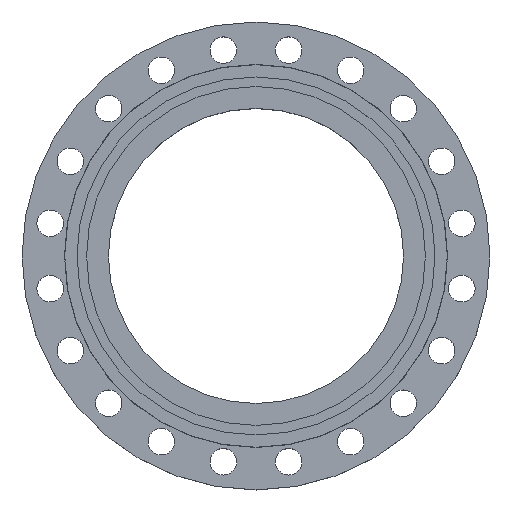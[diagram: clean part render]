
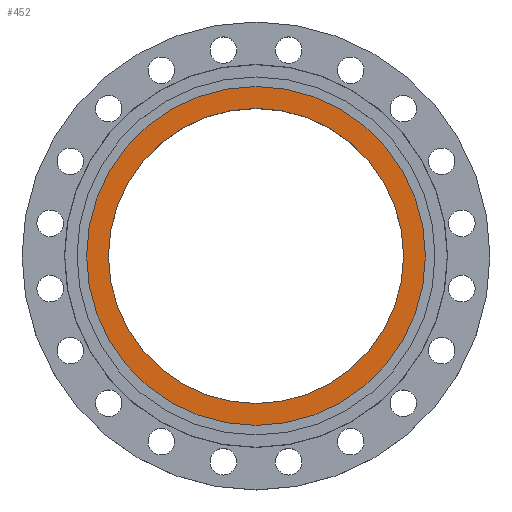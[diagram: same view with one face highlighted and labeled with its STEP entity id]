
A CAD part, top view. The second image highlights one B-rep face of the part: STEP entity #452.
In plain terms, the highlighted planar face has unit normal (0, 0, 1).
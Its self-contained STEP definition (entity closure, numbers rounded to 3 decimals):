
#20 = VERTEX_POINT ( 'NONE', #1211 ) ;
#27 = ORIENTED_EDGE ( 'NONE', *, *, #818, .T. ) ;
#31 = ORIENTED_EDGE ( 'NONE', *, *, #225, .T. ) ;
#46 = DIRECTION ( 'NONE',  ( -1., 0., 0. ) ) ;
#157 = VERTEX_POINT ( 'NONE', #1797 ) ;
#167 = DIRECTION ( 'NONE',  ( 0., 0., -1. ) ) ;
#172 = CIRCLE ( 'NONE', #1495, 248. ) ;
#225 = EDGE_CURVE ( 'NONE', #20, #629, #1146, .T. ) ;
#403 = DIRECTION ( 'NONE',  ( -1., 0., 0. ) ) ;
#452 = ADVANCED_FACE ( 'NONE', ( #1589, #2128 ), #748, .T. ) ;
#524 = DIRECTION ( 'NONE',  ( -1., 0., 0. ) ) ;
#563 = DIRECTION ( 'NONE',  ( 1., 0., 0. ) ) ;
#623 = VERTEX_POINT ( 'NONE', #668 ) ;
#629 = VERTEX_POINT ( 'NONE', #1384 ) ;
#668 = CARTESIAN_POINT ( 'NONE',  ( -248., 0., 0. ) ) ;
#748 = PLANE ( 'NONE',  #934 ) ;
#801 = AXIS2_PLACEMENT_3D ( 'NONE', #1407, #1953, #524 ) ;
#818 = EDGE_CURVE ( 'NONE', #629, #20, #2091, .T. ) ;
#868 = EDGE_CURVE ( 'NONE', #623, #157, #172, .T. ) ;
#916 = EDGE_LOOP ( 'NONE', ( #31, #27 ) ) ;
#934 = AXIS2_PLACEMENT_3D ( 'NONE', #1445, #1997, #563 ) ;
#947 = DIRECTION ( 'NONE',  ( -1., 0., 0. ) ) ;
#1050 = AXIS2_PLACEMENT_3D ( 'NONE', #1279, #1830, #403 ) ;
#1079 = CARTESIAN_POINT ( 'NONE',  ( 0., 0., 0. ) ) ;
#1146 = CIRCLE ( 'NONE', #801, 216. ) ;
#1211 = CARTESIAN_POINT ( 'NONE',  ( -216., 0., 0. ) ) ;
#1279 = CARTESIAN_POINT ( 'NONE',  ( 0., 0., 0. ) ) ;
#1384 = CARTESIAN_POINT ( 'NONE',  ( 216., 0., 0. ) ) ;
#1407 = CARTESIAN_POINT ( 'NONE',  ( 0., 0., 0. ) ) ;
#1445 = CARTESIAN_POINT ( 'NONE',  ( 0., 0., 0. ) ) ;
#1470 = EDGE_LOOP ( 'NONE', ( #2053, #2043 ) ) ;
#1492 = CIRCLE ( 'NONE', #1946, 248. ) ;
#1495 = AXIS2_PLACEMENT_3D ( 'NONE', #1718, #167, #947 ) ;
#1589 = FACE_BOUND ( 'NONE', #916, .T. ) ;
#1655 = DIRECTION ( 'NONE',  ( 0., 0., -1. ) ) ;
#1687 = EDGE_CURVE ( 'NONE', #157, #623, #1492, .T. ) ;
#1718 = CARTESIAN_POINT ( 'NONE',  ( 0., 0., 0. ) ) ;
#1797 = CARTESIAN_POINT ( 'NONE',  ( 248., 0., 0. ) ) ;
#1830 = DIRECTION ( 'NONE',  ( 0., 0., -1. ) ) ;
#1946 = AXIS2_PLACEMENT_3D ( 'NONE', #1079, #1655, #46 ) ;
#1953 = DIRECTION ( 'NONE',  ( 0., 0., -1. ) ) ;
#1997 = DIRECTION ( 'NONE',  ( 0., 0., 1. ) ) ;
#2043 = ORIENTED_EDGE ( 'NONE', *, *, #1687, .F. ) ;
#2053 = ORIENTED_EDGE ( 'NONE', *, *, #868, .F. ) ;
#2091 = CIRCLE ( 'NONE', #1050, 216. ) ;
#2128 = FACE_OUTER_BOUND ( 'NONE', #1470, .T. ) ;
